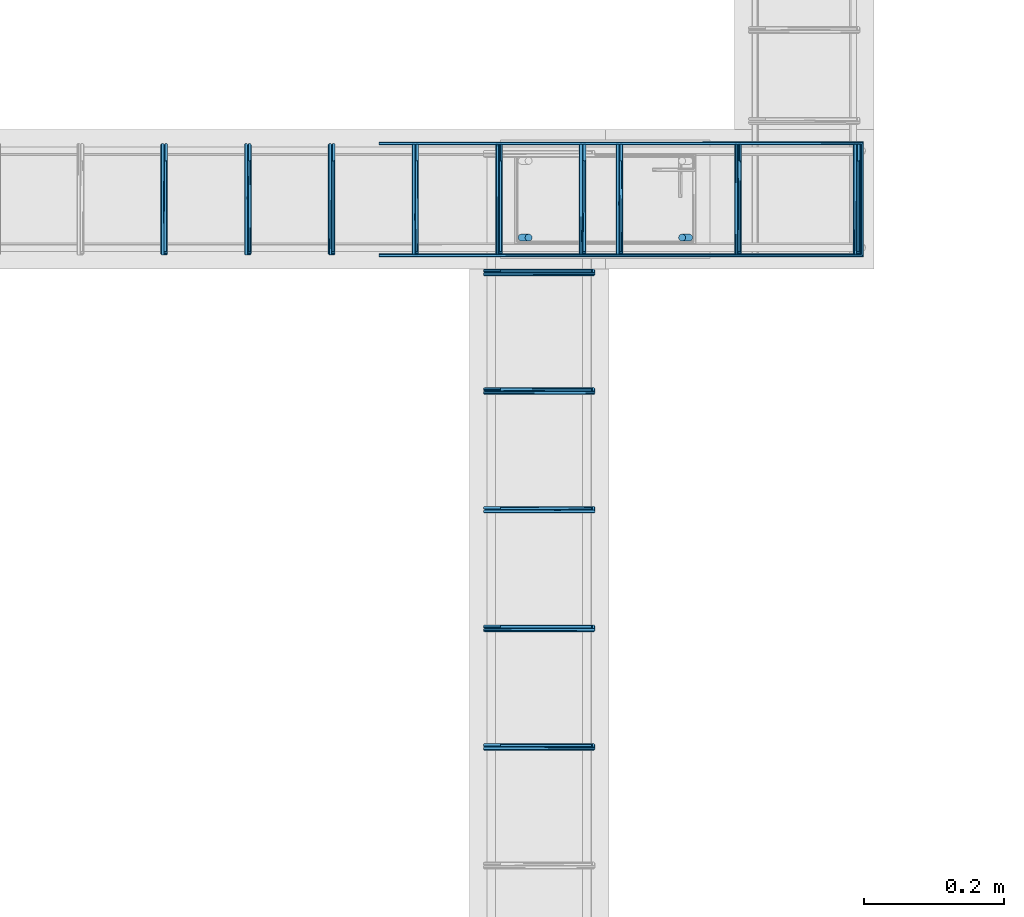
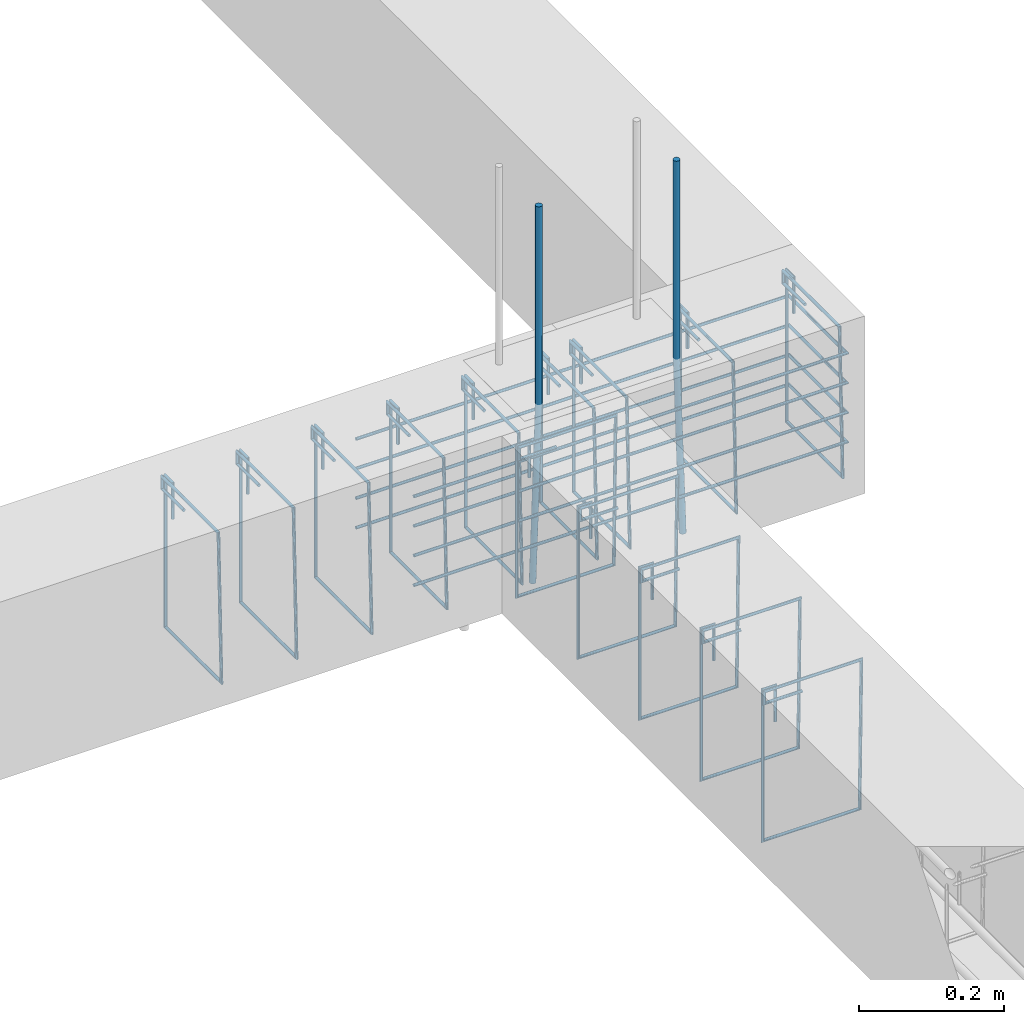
# One storey, part 107 of 150: 20 reinforcing bars.
"""IFC4 building model written with IfcOpenShell, lengths in centimetres."""

import ifcopenshell
import ifcopenshell.guid

model = None  # the IFC model being written
_history = None  # IfcOwnerHistory: only IFC2X3 demands one
_inside = {}  # id of a spatial element -> (the spatial element, [elements in it])
_under = {}  # id of a project, library or spatial element -> (it, [spatial elements below it])
_declared = {}  # id of a project -> (the project, [libraries it declares])
_typed = {}  # id of a type object -> (the type object, [elements of that type])
_made_of = {}  # id of a material, layer set ... -> (it, [elements and type objects made of it])


def new_model(schema):
    """Start an empty IFC model of exactly this schema.

    Asked for "IFC4X3", IfcOpenShell would pick the latest addendum, in which some entities
    have other attributes; the version numbers below select the first issue.
    IFC2X3 requires an IfcOwnerHistory on every rooted entity: one is made here for all.
    """
    global model, _history
    if schema == "IFC4X3":
        model = ifcopenshell.file(schema_version=(4, 3, 0, 0))
    else:
        model = ifcopenshell.file(schema=schema)
    _inside.clear()
    _under.clear()
    _declared.clear()
    _typed.clear()
    _made_of.clear()
    _history = None
    if model.schema == "IFC2X3":
        org = make("IfcOrganization", Name="unknown")
        user = make(
            "IfcPersonAndOrganization",
            ThePerson=make("IfcPerson", FamilyName="unknown"),
            TheOrganization=org,
        )
        app = make(
            "IfcApplication",
            ApplicationDeveloper=org,
            Version="unknown",
            ApplicationFullName="unknown",
            ApplicationIdentifier="unknown",
        )
        _history = make(
            "IfcOwnerHistory",
            OwningUser=user,
            OwningApplication=app,
            ChangeAction="ADDED",
            CreationDate=0,
        )
    return model


def make(cls, **values):
    """One entity of the class cls with the attributes given. An attribute that is None is left unset."""
    return model.create_entity(
        cls, **{name: value for name, value in values.items() if value is not None}
    )


def entity(cls, *values):
    """Any entity or typed value of the class cls, its attributes in the order of the schema. None: left unset."""
    e = model.create_entity(cls)
    for i, value in enumerate(values):
        if value is not None:
            e[i] = value
    return e


def rooted(cls, **values):
    """An entity with a GlobalId (a new one), such as an element, a storey or a relation."""
    return make(cls, GlobalId=ifcopenshell.guid.new(), OwnerHistory=_history, **values)


def si_unit(unit_type, name, prefix=None):
    """IfcSIUnit, for example si_unit("LENGTHUNIT", "METRE", prefix="MILLI")."""
    return make("IfcSIUnit", UnitType=unit_type, Prefix=prefix, Name=name)


def derived_unit(unit_type, elements):
    """IfcDerivedUnit: a product of units, each with its exponent."""
    return make(
        "IfcDerivedUnit",
        Elements=[
            make("IfcDerivedUnitElement", Unit=unit, Exponent=power)
            for unit, power in elements
        ],
        UnitType=unit_type,
    )


def assignment(units):
    """IfcUnitAssignment: the units of a project."""
    return None if units is None else make("IfcUnitAssignment", Units=units)


def point(xyz):
    """IfcCartesianPoint."""
    return None if xyz is None else make("IfcCartesianPoint", Coordinates=xyz)


def direction(xyz):
    """IfcDirection."""
    return None if xyz is None else make("IfcDirection", DirectionRatios=xyz)


def frame(location, z_axis=None, x_axis=None):
    """IfcAxis2Placement3D, a coordinate frame: its origin and axes. An axis left out is left unset."""
    return make(
        "IfcAxis2Placement3D",
        Location=point(location),
        Axis=direction(z_axis),
        RefDirection=direction(x_axis),
    )


def origin_with_axes():
    """The frame at (0, 0, 0) with the z axis (0, 0, 1) and the x axis (1, 0, 0) written out."""
    return frame((0.0, 0.0, 0.0), z_axis=(0.0, 0.0, 1.0), x_axis=(1.0, 0.0, 0.0))


def place(relative_to, where):
    """IfcLocalPlacement: puts the frame where relative to a parent placement (None: the world)."""
    return make(
        "IfcLocalPlacement", PlacementRelTo=relative_to, RelativePlacement=where
    )


def context(
    kind, dimensions, precision=None, world=None, true_north=None, identifier=None
):
    """IfcGeometricRepresentationContext, for example the 3D "Model" context."""
    return make(
        "IfcGeometricRepresentationContext",
        ContextIdentifier=identifier,
        ContextType=kind,
        CoordinateSpaceDimension=dimensions,
        Precision=precision,
        WorldCoordinateSystem=world,
        TrueNorth=true_north,
    )


def project(units=None, contexts=None):
    """IfcProject with its units and contexts."""
    return rooted(
        "IfcProject",
        Name="project",
        RepresentationContexts=contexts,
        UnitsInContext=assignment(units),
    )


def spatial(cls, under=None, at=None, **own):
    """A site, building, storey or space (cls), placed at a placement, below another one or the project."""
    s = rooted(cls, ObjectPlacement=at, **own)
    if under is not None:
        _under.setdefault(under.id(), (under, []))[1].append(s)
    return s


def shape(context_of_items, identifier, shape_type, items):
    """IfcShapeRepresentation: the items that make up one representation, for example the "Body"."""
    return make(
        "IfcShapeRepresentation",
        ContextOfItems=context_of_items,
        RepresentationIdentifier=identifier,
        RepresentationType=shape_type,
        Items=items,
    )


def source(mapping_origin, context_of_items, identifier, shape_type, items):
    """IfcRepresentationMap: a shape defined once, which mapped items show again and again."""
    return make(
        "IfcRepresentationMap",
        MappingOrigin=mapping_origin,
        MappedRepresentation=shape(context_of_items, identifier, shape_type, items),
    )


def transform(
    local_origin,
    x_axis=None,
    y_axis=None,
    z_axis=None,
    scale=None,
    scale2=None,
    scale3=None,
    uniform=True,
):
    """IfcCartesianTransformationOperator3D, or its non-uniform kind. x_axis, y_axis, z_axis: its Axis1, 2, 3."""
    if uniform:
        return make(
            "IfcCartesianTransformationOperator3D",
            Axis1=direction(x_axis),
            Axis2=direction(y_axis),
            LocalOrigin=point(local_origin),
            Scale=scale,
            Axis3=direction(z_axis),
        )
    return make(
        "IfcCartesianTransformationOperator3DnonUniform",
        Axis1=direction(x_axis),
        Axis2=direction(y_axis),
        LocalOrigin=point(local_origin),
        Scale=scale,
        Axis3=direction(z_axis),
        Scale2=scale2,
        Scale3=scale3,
    )


def mapped(mapping_source, mapping_target):
    """IfcMappedItem: shows the shape of a source again, moved by a transform."""
    return make(
        "IfcMappedItem", MappingSource=mapping_source, MappingTarget=mapping_target
    )


def made_of(thing, what):
    """Note that an element or type object is made of a material, layer set ...; save() writes the relation."""
    if what is not None:
        _made_of.setdefault(what.id(), (what, []))[1].append(thing)
    return thing


def element(
    cls,
    number,
    at=None,
    inside=None,
    cuts=None,
    type_object=None,
    material=None,
    context=None,
    identifier="Body",
    shape_type=None,
    held_by="IfcProductDefinitionShape",
    body=None,
    shapes=None,
    **own,
):
    """One element of the class cls, such as IfcWall. Its Tag is "e" and its number.

    at: its placement. inside: the storey or other place that contains it. cuts: it is an
    opening in that element (IfcRelVoidsElement). A single representation is given by context,
    identifier, shape_type and body (its items); several are given by shapes. held_by: the class
    of the entity that holds the representations. save() writes the other relations.
    """
    e = rooted(cls, Tag="e%d" % number, ObjectPlacement=at, **own)
    if body is not None:
        shapes = [shape(context, identifier, shape_type, body)]
    if shapes is not None:
        e.Representation = make(held_by, Representations=shapes)
    if inside is not None:
        _inside.setdefault(inside.id(), (inside, []))[1].append(e)
    if cuts is not None:
        rooted(
            "IfcRelVoidsElement", RelatingBuildingElement=cuts, RelatedOpeningElement=e
        )
    if type_object is not None:
        _typed.setdefault(type_object.id(), (type_object, []))[1].append(e)
    return made_of(e, material)


def aggregate(whole, parts):
    """IfcRelAggregates: a whole, such as a stair, and the parts it consists of."""
    return rooted("IfcRelAggregates", RelatingObject=whole, RelatedObjects=parts)


def save(model, path):
    """Write the relations noted so far, then the file.

    IfcRelAggregates (storeys below a building ...), IfcRelContainedInSpatialStructure (elements
    in a storey), IfcRelDefinesByType, IfcRelAssociatesMaterial and IfcRelDeclares: one each for
    every whole, place, type object, material and project.
    """
    for whole, parts in _under.values():
        aggregate(whole, parts)
    for where, things in _inside.values():
        rooted(
            "IfcRelContainedInSpatialStructure",
            RelatedElements=things,
            RelatingStructure=where,
        )
    for kind, things in _typed.values():
        rooted("IfcRelDefinesByType", RelatedObjects=things, RelatingType=kind)
    for what, things in _made_of.values():
        rooted("IfcRelAssociatesMaterial", RelatedObjects=things, RelatingMaterial=what)
    for by, libraries in _declared.values():
        rooted("IfcRelDeclares", RelatingContext=by, RelatedDefinitions=libraries)
    model.write(path)


model = new_model("IFC4")

# Units and contexts
model_context = context("Model", 3, precision=1e-05, world=origin_with_axes(), identifier="Body")
ifc_project = project(units=[si_unit("LENGTHUNIT", "METRE", prefix="CENTI"), si_unit("VOLUMEUNIT", "CUBIC_METRE"), si_unit("AREAUNIT", "SQUARE_METRE"), si_unit("POWERUNIT", "WATT"), si_unit("LUMINOUSFLUXUNIT", "LUMEN"), si_unit("ELECTRICCURRENTUNIT", "AMPERE"), si_unit("PRESSUREUNIT", "PASCAL", prefix="KILO"), si_unit("MASSUNIT", "GRAM", prefix="KILO"), si_unit("PLANEANGLEUNIT", "RADIAN"), derived_unit("VOLUMETRICFLOWRATEUNIT", [(si_unit("LENGTHUNIT", "METRE"), 3), (si_unit("TIMEUNIT", "SECOND"), -1)])], contexts=[model_context])

# Site, building, storey
site_placement = place(None, frame((-4000.0, 0.0, 0.0), z_axis=(0.0, 0.0, 1.0), x_axis=(1.0, 0.0, 0.0)))
site = spatial("IfcSite", under=ifc_project, at=site_placement, Name="PADRÃO")
building_placement = place(site_placement, frame((0.0, 0.0, -14.0)))
building = spatial("IfcBuilding", under=site, at=building_placement, Name="CRECHE PRÉ-ESCOLA TIPO 2")
placement = place(building_placement, origin_with_axes())
storey_placement = place(placement, frame((0.0, 0.0, 30.0), z_axis=(0.0, 0.0, 1.0), x_axis=(1.0, 0.0, 0.0)))
storey = spatial("IfcBuildingStorey", under=building, at=storey_placement, Name="VIGA BALDRAME", CompositionType="ELEMENT", Elevation=16.0)

# Reinforcing bars
shared_shape_1 = source(origin_with_axes(), model_context, "Body", "AdvancedSweptSolid", [
    entity("IfcSweptDiskSolid", entity("IfcCompositeCurve", [entity("IfcCompositeCurveSegment", "CONTINUOUS", True, entity("IfcPolyline", [entity("IfcCartesianPoint", [2.0, -6.0, 0.0]), entity("IfcCartesianPoint", [2.0, 0.0, 0.0])])), entity("IfcCompositeCurveSegment", "CONTINUOUS", True, entity("IfcPolyline", [entity("IfcCartesianPoint", [2.0, 0.0, 0.0]), entity("IfcCartesianPoint", [0.0, 0.0, 0.0])])), entity("IfcCompositeCurveSegment", "CONTINUOUS", True, entity("IfcPolyline", [entity("IfcCartesianPoint", [0.0, 0.0, 0.0]), entity("IfcCartesianPoint", [0.0, -25.5, 0.0])])), entity("IfcCompositeCurveSegment", "CONTINUOUS", True, entity("IfcPolyline", [entity("IfcCartesianPoint", [0.0, -25.5, 0.0]), entity("IfcCartesianPoint", [15.5, -25.5, 0.0])])), entity("IfcCompositeCurveSegment", "CONTINUOUS", True, entity("IfcPolyline", [entity("IfcCartesianPoint", [15.5, -25.5, 0.0]), entity("IfcCartesianPoint", [15.5, 0.0, 0.5])])), entity("IfcCompositeCurveSegment", "CONTINUOUS", True, entity("IfcPolyline", [entity("IfcCartesianPoint", [15.5, 0.0, 0.5]), entity("IfcCartesianPoint", [0.0, 0.0, 0.5])])), entity("IfcCompositeCurveSegment", "CONTINUOUS", True, entity("IfcPolyline", [entity("IfcCartesianPoint", [0.0, 0.0, 0.5]), entity("IfcCartesianPoint", [0.0, -2.0, 0.5])])), entity("IfcCompositeCurveSegment", "CONTINUOUS", True, entity("IfcPolyline", [entity("IfcCartesianPoint", [0.0, -2.0, 0.5]), entity("IfcCartesianPoint", [6.0, -2.0, 0.5])]))], False), 0.25),
])
for number, where, z_axis, x_axis, name in (
    (1, (3369.5, 3207.77, -2.25), (-1.0, 0.0, 0.0), (0.0, -1.0, 0.0), "V114 - Estribo"),
    (2, (3345.5, 3207.77, -2.25), (-1.0, 0.0, 0.0), (0.0, -1.0, 0.0), "V114 - Estribo"),
    (3, (3333.5, 3207.77, -2.25), (-1.0, 0.0, 0.0), (0.0, -1.0, 0.0), "V114 - Estribo"),
    (4, (3321.5, 3207.77, -2.25), (-1.0, 0.0, 0.0), (0.0, -1.0, 0.0), "V114 - Estribo"),
    (5, (3309.5, 3207.77, -2.25), (-1.0, 0.0, 0.0), (0.0, -1.0, 0.0), "V114 - Estribo"),
    (6, (3357.5, 3207.77, -2.25), (-1.0, 0.0, 0.0), (0.0, -1.0, 0.0), "V114 - Estribo"),
):
    element("IfcReinforcingBar", number, at=place(storey_placement, frame(where, z_axis=z_axis, x_axis=x_axis)), inside=storey, Name=name, BarLength=0.0, CrossSectionArea=1.9634954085e-05, NominalDiameter=0.5, PredefinedType="MAIN", context=model_context, shape_type="MappedRepresentation", body=[
        mapped(shared_shape_1, transform((0.0, 0.0, 0.0), scale=1.0)),
    ])
shared_shape_2 = source(origin_with_axes(), model_context, "Body", "AdvancedSweptSolid", [
    entity("IfcSweptDiskSolid", entity("IfcCompositeCurve", [entity("IfcCompositeCurveSegment", "CONTINUOUS", True, entity("IfcPolyline", [entity("IfcCartesianPoint", [2.0, -6.0, 0.0]), entity("IfcCartesianPoint", [2.0, 0.0, 0.0])])), entity("IfcCompositeCurveSegment", "CONTINUOUS", True, entity("IfcPolyline", [entity("IfcCartesianPoint", [2.0, 0.0, 0.0]), entity("IfcCartesianPoint", [0.0, 0.0, 0.0])])), entity("IfcCompositeCurveSegment", "CONTINUOUS", True, entity("IfcPolyline", [entity("IfcCartesianPoint", [0.0, 0.0, 0.0]), entity("IfcCartesianPoint", [0.0, -25.5, 0.0])])), entity("IfcCompositeCurveSegment", "CONTINUOUS", True, entity("IfcPolyline", [entity("IfcCartesianPoint", [0.0, -25.5, 0.0]), entity("IfcCartesianPoint", [15.5, -25.5, 0.0])])), entity("IfcCompositeCurveSegment", "CONTINUOUS", True, entity("IfcPolyline", [entity("IfcCartesianPoint", [15.5, -25.5, 0.0]), entity("IfcCartesianPoint", [15.5, 0.0, 0.5])])), entity("IfcCompositeCurveSegment", "CONTINUOUS", True, entity("IfcPolyline", [entity("IfcCartesianPoint", [15.5, 0.0, 0.5]), entity("IfcCartesianPoint", [0.0, 0.0, 0.5])])), entity("IfcCompositeCurveSegment", "CONTINUOUS", True, entity("IfcPolyline", [entity("IfcCartesianPoint", [0.0, 0.0, 0.5]), entity("IfcCartesianPoint", [0.0, -2.0, 0.5])])), entity("IfcCompositeCurveSegment", "CONTINUOUS", True, entity("IfcPolyline", [entity("IfcCartesianPoint", [0.0, -2.0, 0.5]), entity("IfcCartesianPoint", [6.0, -2.0, 0.5])]))], False), 0.25),
])
for number, where, z_axis, x_axis, name in (
    (7, (3408.74, 3207.76, -2.25), (-1.0, 0.0, 0.0), (0.0, -1.0, 0.0), "V114 - Estribo"),
    (8, (3391.74, 3207.76, -2.25), (-1.0, 0.0, 0.0), (0.0, -1.0, 0.0), "V114 - Estribo"),
    (9, (3374.74, 3207.76, -2.25), (-1.0, 0.0, 0.0), (0.0, -1.0, 0.0), "V114 - Estribo"),
):
    element("IfcReinforcingBar", number, at=place(storey_placement, frame(where, z_axis=z_axis, x_axis=x_axis)), inside=storey, Name=name, BarLength=0.0, CrossSectionArea=1.9634954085e-05, NominalDiameter=0.5, PredefinedType="MAIN", context=model_context, shape_type="MappedRepresentation", body=[
        mapped(shared_shape_2, transform((0.0, 0.0, 0.0), scale=1.0)),
    ])
shared_shape_3 = source(origin_with_axes(), model_context, "Body", "AdvancedSweptSolid", [
    entity("IfcSweptDiskSolid", entity("IfcCompositeCurve", [entity("IfcCompositeCurveSegment", "CONTINUOUS", True, entity("IfcPolyline", [entity("IfcCartesianPoint", [0.0, 0.0, 0.0]), entity("IfcCartesianPoint", [69.1813828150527, 0.0, 0.0])])), entity("IfcCompositeCurveSegment", "CONTINUOUS", True, entity("IfcPolyline", [entity("IfcCartesianPoint", [69.1813828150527, 0.0, 0.0]), entity("IfcCartesianPoint", [69.1813828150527, 16.0, 0.0])])), entity("IfcCompositeCurveSegment", "CONTINUOUS", True, entity("IfcPolyline", [entity("IfcCartesianPoint", [69.1813828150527, 16.0, 0.0]), entity("IfcCartesianPoint", [0.0, 16.0, 0.0])]))], False), 0.25),
])
for number, where, z_axis, x_axis, name in (
    (10, (3340.04861718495, 3192.01, -6.875), (0.0, 0.0, 1.0), (1.0, 0.0, 0.0), "V114 - Grampo"),
    (11, (3340.04861718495, 3192.01, -11.875), (0.0, 0.0, 1.0), (1.0, 0.0, 0.0), "V114 - Grampo"),
    (12, (3340.04861718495, 3192.01, -21.875), (0.0, 0.0, 1.0), (1.0, 0.0, 0.0), "V114 - Grampo"),
    (13, (3340.04861718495, 3192.01, -16.875), (0.0, 0.0, 1.0), (1.0, 0.0, 0.0), "V114 - Grampo"),
):
    element("IfcReinforcingBar", number, at=place(storey_placement, frame(where, z_axis=z_axis, x_axis=x_axis)), inside=storey, Name=name, BarLength=0.0, CrossSectionArea=1.9634954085e-05, NominalDiameter=0.5, PredefinedType="MAIN", context=model_context, shape_type="MappedRepresentation", body=[
        mapped(shared_shape_3, transform((0.0, 0.0, 0.0), scale=1.0)),
    ])
shared_shape_4 = source(origin_with_axes(), model_context, "Body", "AdvancedSweptSolid", [
    entity("IfcSweptDiskSolid", entity("IfcCompositeCurve", [entity("IfcCompositeCurveSegment", "CONTINUOUS", True, entity("IfcPolyline", [entity("IfcCartesianPoint", [2.0, -6.0, 0.0]), entity("IfcCartesianPoint", [2.0, 0.0, 0.0])])), entity("IfcCompositeCurveSegment", "CONTINUOUS", True, entity("IfcPolyline", [entity("IfcCartesianPoint", [2.0, 0.0, 0.0]), entity("IfcCartesianPoint", [0.0, 0.0, 0.0])])), entity("IfcCompositeCurveSegment", "CONTINUOUS", True, entity("IfcPolyline", [entity("IfcCartesianPoint", [0.0, 0.0, 0.0]), entity("IfcCartesianPoint", [0.0, -25.5, 0.0])])), entity("IfcCompositeCurveSegment", "CONTINUOUS", True, entity("IfcPolyline", [entity("IfcCartesianPoint", [0.0, -25.5, 0.0]), entity("IfcCartesianPoint", [15.5, -25.5, 0.0])])), entity("IfcCompositeCurveSegment", "CONTINUOUS", True, entity("IfcPolyline", [entity("IfcCartesianPoint", [15.5, -25.5, 0.0]), entity("IfcCartesianPoint", [15.5, 0.0, 0.5])])), entity("IfcCompositeCurveSegment", "CONTINUOUS", True, entity("IfcPolyline", [entity("IfcCartesianPoint", [15.5, 0.0, 0.5]), entity("IfcCartesianPoint", [0.0, 0.0, 0.5])])), entity("IfcCompositeCurveSegment", "CONTINUOUS", True, entity("IfcPolyline", [entity("IfcCartesianPoint", [0.0, 0.0, 0.5]), entity("IfcCartesianPoint", [0.0, -2.0, 0.5])])), entity("IfcCompositeCurveSegment", "CONTINUOUS", True, entity("IfcPolyline", [entity("IfcCartesianPoint", [0.0, -2.0, 0.5]), entity("IfcCartesianPoint", [6.0, -2.0, 0.5])]))], False), 0.25),
])
for number, where, z_axis, x_axis, name in (
    (14, (3355.25, 3189.77, -2.25), (0.0, -1.0, 0.0), (1.0, 0.0, 0.0), "V227 - Estribo"),
    (15, (3355.25, 3172.77, -2.25), (0.0, -1.0, 0.0), (1.0, 0.0, 0.0), "V227 - Estribo"),
    (16, (3355.25, 3155.77, -2.25), (0.0, -1.0, 0.0), (1.0, 0.0, 0.0), "V227 - Estribo"),
    (17, (3355.25, 3138.77, -2.25), (0.0, -1.0, 0.0), (1.0, 0.0, 0.0), "V227 - Estribo"),
    (18, (3355.25, 3121.77, -2.25), (0.0, -1.0, 0.0), (1.0, 0.0, 0.0), "V227 - Estribo"),
):
    element("IfcReinforcingBar", number, at=place(storey_placement, frame(where, z_axis=z_axis, x_axis=x_axis)), inside=storey, Name=name, BarLength=0.0, CrossSectionArea=1.9634954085e-05, NominalDiameter=0.5, PredefinedType="MAIN", context=model_context, shape_type="MappedRepresentation", body=[
        mapped(shared_shape_4, transform((0.0, 0.0, 0.0), scale=1.0)),
    ])
reinforcing_bar_1_placement = place(storey_placement, frame((3361.00013877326, 3194.52, 33.3573001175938), z_axis=(0.0, 0.0, 1.0), x_axis=(1.0, 0.0, 0.0)))
element("IfcReinforcingBar", 19, at=reinforcing_bar_1_placement, inside=storey, Name="P56 - Longitudinal", BarLength=0.0, CrossSectionArea=7.853981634e-05, NominalDiameter=1.0, PredefinedType="MAIN", context=model_context, shape_type="AdvancedSweptSolid", body=[
    entity("IfcSweptDiskSolid", entity("IfcCompositeCurve", [entity("IfcCompositeCurveSegment", "CONTINUOUS", True, entity("IfcPolyline", [entity("IfcCartesianPoint", [-0.500138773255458, 0.0, -63.3573001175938]), entity("IfcCartesianPoint", [0.499861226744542, 0.0, -33.3573001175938])])), entity("IfcCompositeCurveSegment", "CONTINUOUS", True, entity("IfcPolyline", [entity("IfcCartesianPoint", [0.499861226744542, 0.0, -33.3573001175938]), entity("IfcCartesianPoint", [0.499861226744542, 0.0, 0.0])]))], False), 0.5),
])
reinforcing_bar_2_placement = place(storey_placement, frame((3383.99986122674, 3194.52, 33.3573001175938), z_axis=(0.0, 0.0, 1.0), x_axis=(1.0, 0.0, 0.0)))
element("IfcReinforcingBar", 20, at=reinforcing_bar_2_placement, inside=storey, Name="P56 - Longitudinal", BarLength=0.0, CrossSectionArea=7.853981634e-05, NominalDiameter=1.0, PredefinedType="MAIN", context=model_context, shape_type="AdvancedSweptSolid", body=[
    entity("IfcSweptDiskSolid", entity("IfcCompositeCurve", [entity("IfcCompositeCurveSegment", "CONTINUOUS", True, entity("IfcPolyline", [entity("IfcCartesianPoint", [0.500138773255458, 0.0, -63.3573001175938]), entity("IfcCartesianPoint", [-0.499861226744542, 0.0, -33.3573001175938])])), entity("IfcCompositeCurveSegment", "CONTINUOUS", True, entity("IfcPolyline", [entity("IfcCartesianPoint", [-0.499861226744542, 0.0, -33.3573001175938]), entity("IfcCartesianPoint", [-0.499861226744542, 0.0, 0.0])]))], False), 0.5),
])

save(model, "model.ifc")
